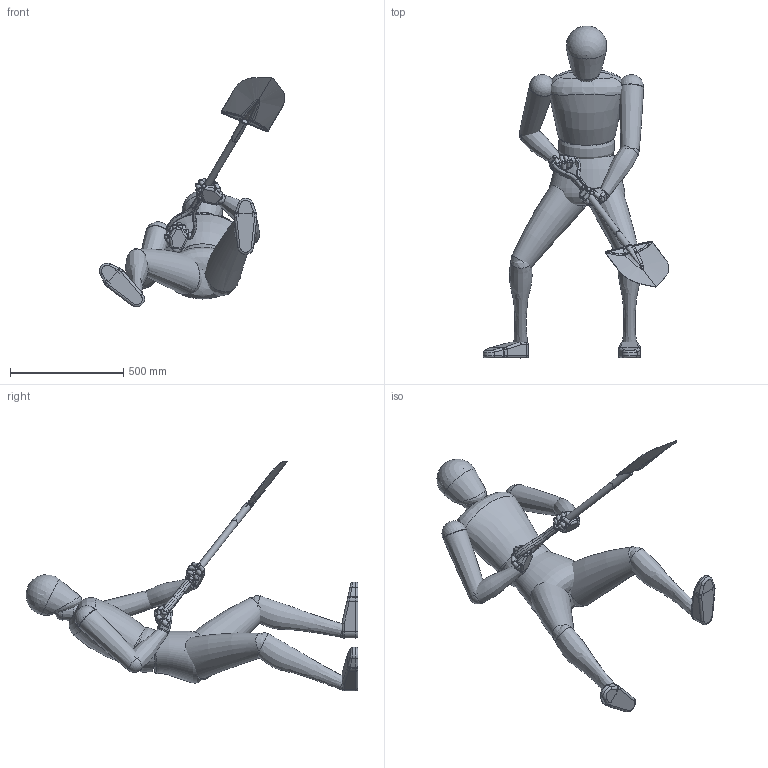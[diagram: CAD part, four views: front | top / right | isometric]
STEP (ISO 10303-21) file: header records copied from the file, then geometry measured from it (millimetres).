
FILE_DESCRIPTION(/* description */ (''),/* implementation_level */ '2;1');
FILE_NAME(/* name */ 'D:\100-HP用\人物\男性\21-穴を掘る\スコップ1.stp',/* time_stamp */ '2022-06-16T16:56:30+09:00',/* author */ ('D'),/* organization */ (''),/* preprocessor_version */ 'ST-DEVELOPER v18',/* originating_system */ 'Autodesk Inventor 2020',/* authorisation */ '');
FILE_SCHEMA (('AUTOMOTIVE_DESIGN { 1 0 10303 214 3 1 1 }'));
Length unit declared in the file: millimetre
Products named in the file (30): 170; Part3; Part2; Part1; Part1_1; Part2_1; Part3_1; Part3_2; Part5; Part6; Part4; Head; 握る_L; 握る_R; Part1_2; Part1_3; Part1_4; Part1_5; Part1_6; Part1_7; Part1_8; Part1_9; Part1_10; Part1_11; Part1_12; Part1_13; Part1_14; Part1_15; Part1_16; Part4_1
Assembly tree (50 placements, depth 3):
  170
    Part3
    Part2
    Part1
    Part1_1  x2
    Part2_1  x2
    Part3_1  x2
    Part3_2  x2
    Part5  x2
    Part6  x2
    Part4
    Head
    握る_L
      Part1_2
      Part1_3
      Part1_4
      Part1_5
      Part1_6
      Part1_7
      Part1_8
      Part1_9
      Part1_10
      Part1_11
      Part1_12
      Part1_13
      Part1_14
      Part1_15
      Part1_16
    握る_R
      Part1_2
      Part1_3
      Part1_4
      Part1_5
      Part1_6
      Part1_7
      Part1_8
      Part1_9
      Part1_10
      Part1_11
      Part1_12
      Part1_13
      Part1_14
      Part1_15
      Part1_16
    Part4_1
Bounding box: 821.02 x 1467.96 x 1016.9 mm (x, y, z)
Volume: 68152483.2 mm3; surface area: 2525564.2 mm2
Topology: 48 solids, 48 shells, 453 faces, 1201 edges, 717 vertices
Faces by surface type: sphere 119, cylinder 114, plane 99, bspline 57, torus 34, cone 30
Full cylindrical faces by diameter (mm): 20 x2, 30 x1
Entity records: 15625 total; most frequent: CARTESIAN_POINT 7343, DIRECTION 1626, ORIENTED_EDGE 1410, AXIS2_PLACEMENT_3D 707, EDGE_CURVE 705, VERTEX_POINT 479, EDGE_LOOP 336, CIRCLE 322
